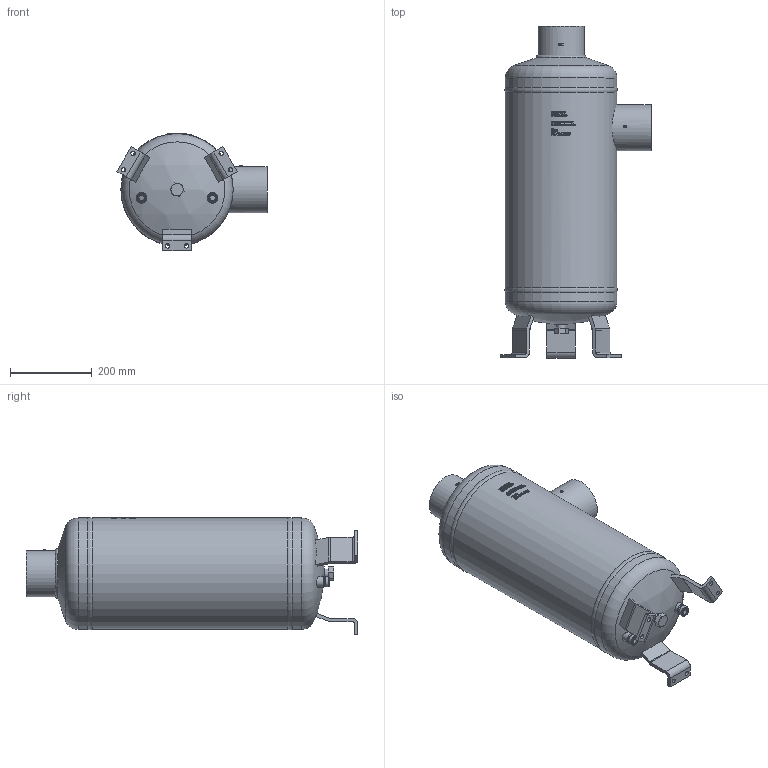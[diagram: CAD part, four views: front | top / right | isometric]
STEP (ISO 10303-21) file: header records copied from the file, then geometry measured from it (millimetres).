
FILE_DESCRIPTION(/* description */ (''),/* implementation_level */ '2;1');
FILE_NAME(/* name */ 'P:\FA\FA-104-32W\FA-104-32W.stp',/* time_stamp */ '2017-10-05T08:07:40+02:00',/* author */ ('neufeld'),/* organization */ (''),/* preprocessor_version */ 'ST-DEVELOPER v16.1',/* originating_system */ 'Autodesk Inventor 2016',/* authorisation */ '');
FILE_SCHEMA (('AUTOMOTIVE_DESIGN { 1 0 10303 214 3 1 1 }'));
Length unit declared in the file: millimetre
Products named in the file (2): FA-104-32W; FA-104-32W_1
Assembly tree (1 placements, depth 2):
  FA-104-32W_1
    FA-104-32W
Bounding box: 367.9 x 813.39 x 288.5 mm (x, y, z)
Volume: 37684307.2 mm3; surface area: 784629.9 mm2
Topology: 1 solids, 1 shells, 1303 faces, 3512 edges, 2331 vertices
Faces by surface type: plane 704, bspline 423, cylinder 146, cone 21, torus 5, sphere 4
Full cylindrical faces by diameter (mm): 10.5 x6, 13.3 x2, 15.1 x2, 15.75 x2, 19.05 x2, 22.5 x5, 23.6 x1, 25.2 x2, 26 x2, 104.8 x2, 112.7 x2, 273 x1, 273.2 x2
Entity records: 50185 total; most frequent: CARTESIAN_POINT 19676, ORIENTED_EDGE 6924, DIRECTION 5284, EDGE_CURVE 3462, VERTEX_POINT 2326, AXIS2_PLACEMENT_3D 1815, LINE 1654, VECTOR 1654
